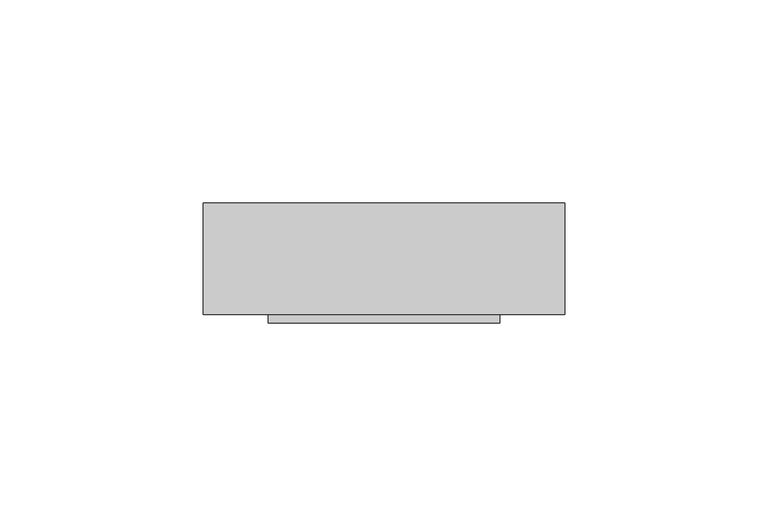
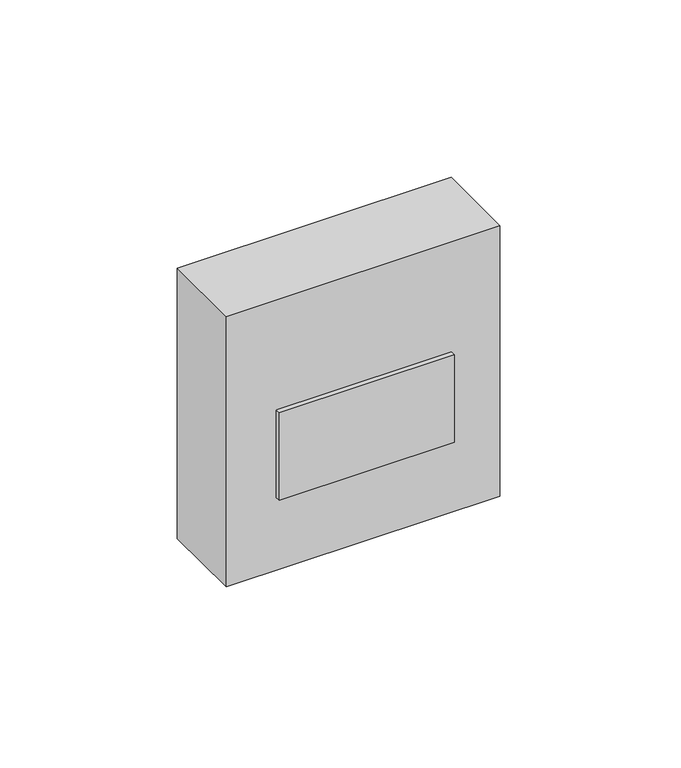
"""IFC4 building model written with IfcOpenShell, lengths in millimetres: alarm geometry, ZYR_12.01.08 Polsadors : 01 Polsador Emergència."""

from ifc_helpers import new_model, si_unit, frame, origin, origin_with_axes, place, context, project, spatial, polyline, outline, extrude, source, transform, mapped, element, save


def alarm_b66ea3ad(model_context):
    return source(origin(), model_context, "Body", "SweptSolid", [
        extrude(outline(polyline([(44.5, -27.5), (-44.5, -27.5), (-44.5, 0.0), (44.5, 0.0), (44.5, -27.5)])), origin_with_axes(), (0.0, 0.0, 1.0), 93.0),
        extrude(outline(polyline([(28.5064947, -29.5), (-28.5064947, -29.5), (-28.5064947, -27.5), (28.5064947, -27.5), (28.5064947, -29.5)])), frame((0.0, 0.0, 25.4561796), z_axis=(0.0, 0.0, 1.0), x_axis=(1.0, 0.0, 0.0)), (0.0, 0.0, 1.0), 30.0569049),
    ])


if __name__ == "__main__":
    model = new_model("IFC4")
    model_context = context("Model", 3, world=origin())
    ifc_project = project(units=[si_unit("LENGTHUNIT", "METRE", prefix="MILLI")], contexts=[model_context])
    site = spatial("IfcSite", under=ifc_project)
    building = spatial("IfcBuilding", under=site)
    placement = place(None, origin())
    alarm_shape = alarm_b66ea3ad(model_context)
    element("IfcAlarm", 1, ObjectType="ZYR_12.01.08 Polsadors : 01 Polsador Emergència", at=placement, inside=building, context=model_context, shape_type="MappedRepresentation", body=[
        mapped(alarm_shape, transform((0.0, 0.0, 0.0), x_axis=(1.0, 0.0, 0.0), y_axis=(0.0, 1.0, 0.0), z_axis=(0.0, 0.0, 1.0))),
    ])
    save(model, "model.ifc")
